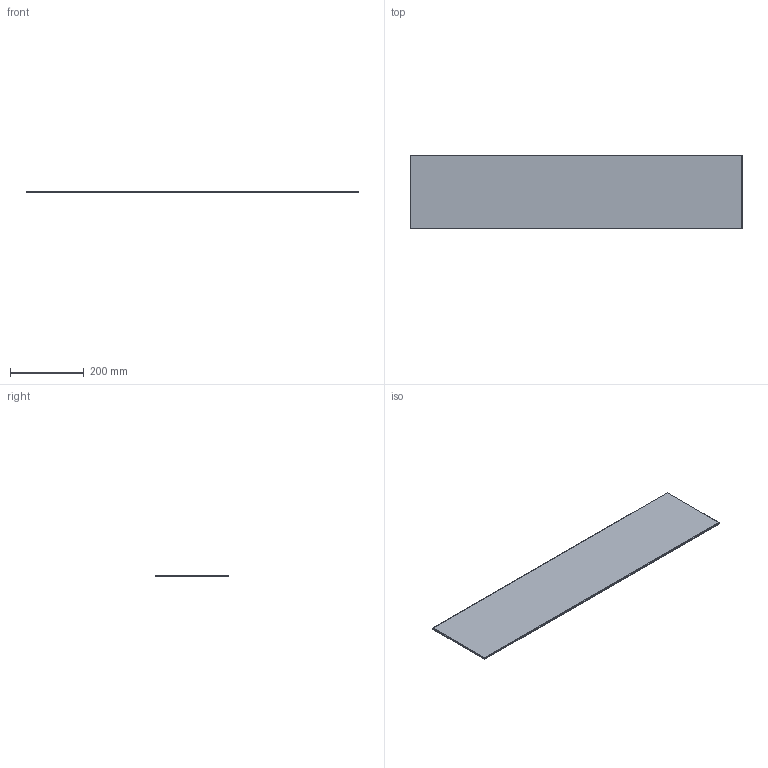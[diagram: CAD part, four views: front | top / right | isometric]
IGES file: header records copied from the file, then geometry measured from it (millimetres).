
Start section: 3D InterOp IGES (v. 2018 1.0.2), Spatial Corp. Copyright (c) 1999-2017.
Global section: file name: Tablette longue.igs; native system: Spatial Corp.; preprocessor: 3D InterOp GENERIC/IGES 3.0; author: Noname; organization: Noname; date: 20190430.084331; units: millimetre
Bounding box: 900 x 200 x 5 mm (x, y, z)
Surface area: 368407.8 mm2 (no closed solid volume)
Topology: 0 solids, 0 shells, 26 faces, 96 edges, 96 vertices
Faces by surface type: extrusion 26
